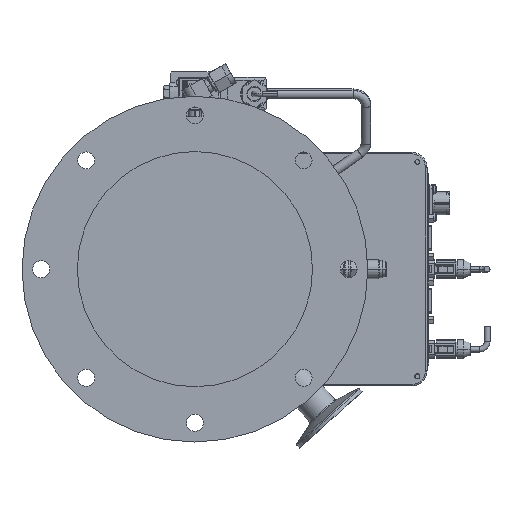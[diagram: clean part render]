
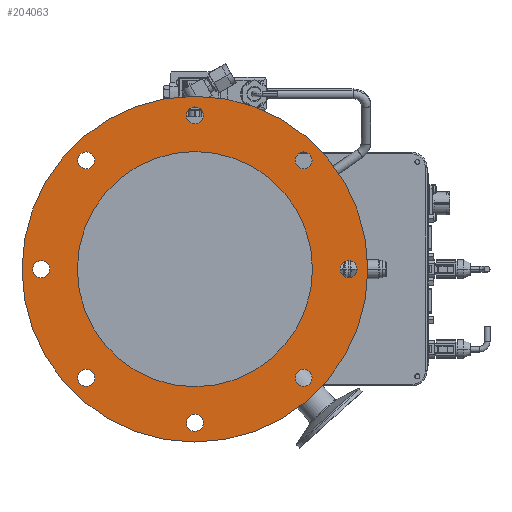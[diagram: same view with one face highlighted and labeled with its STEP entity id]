
A CAD part, left-side view. The second image highlights one B-rep face of the part: STEP entity #204063.
In plain terms, the highlighted planar face has unit normal (-1, 0, 0).
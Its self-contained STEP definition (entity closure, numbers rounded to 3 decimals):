
#68069=CARTESIAN_POINT('',(-175.465,0.,0.));
#68070=DIRECTION('',(-1.,0.,0.));
#68071=DIRECTION('',(0.,0.,1.));
#68072=AXIS2_PLACEMENT_3D('',#68069,#68070,#68071);
#68078=CARTESIAN_POINT('',(-175.465,0.,0.));
#68079=DIRECTION('',(1.,0.,0.));
#68080=DIRECTION('',(0.,0.,1.));
#68081=AXIS2_PLACEMENT_3D('',#68078,#68079,#68080);
#68083=CARTESIAN_POINT('',(-175.465,0.,0.));
#68084=DIRECTION('',(1.,0.,0.));
#68085=DIRECTION('',(0.,0.,1.));
#68086=AXIS2_PLACEMENT_3D('',#68083,#68084,#68085);
#68088=CARTESIAN_POINT('',(-175.465,0.,0.));
#68089=DIRECTION('',(-1.,0.,0.));
#68090=DIRECTION('',(0.,0.,1.));
#68091=AXIS2_PLACEMENT_3D('',#68088,#68089,#68090);
#68093=CARTESIAN_POINT('',(-175.465,70.711,70.711));
#68094=DIRECTION('',(-1.,0.,0.));
#68095=DIRECTION('',(0.,0.,-1.));
#68096=AXIS2_PLACEMENT_3D('',#68093,#68094,#68095);
#68098=CARTESIAN_POINT('',(-175.465,70.711,70.711));
#68099=DIRECTION('',(-1.,0.,0.));
#68100=DIRECTION('',(0.,0.,1.));
#68101=AXIS2_PLACEMENT_3D('',#68098,#68099,#68100);
#68103=CARTESIAN_POINT('',(-175.465,100.,0.));
#68104=DIRECTION('',(-1.,0.,0.));
#68105=DIRECTION('',(0.,0.,-1.));
#68106=AXIS2_PLACEMENT_3D('',#68103,#68104,#68105);
#68108=CARTESIAN_POINT('',(-175.465,100.,0.));
#68109=DIRECTION('',(-1.,0.,0.));
#68110=DIRECTION('',(0.,0.,1.));
#68111=AXIS2_PLACEMENT_3D('',#68108,#68109,#68110);
#68113=CARTESIAN_POINT('',(-175.465,70.711,-70.711));
#68114=DIRECTION('',(-1.,0.,0.));
#68115=DIRECTION('',(0.,0.,-1.));
#68116=AXIS2_PLACEMENT_3D('',#68113,#68114,#68115);
#68118=CARTESIAN_POINT('',(-175.465,70.711,-70.711));
#68119=DIRECTION('',(-1.,0.,0.));
#68120=DIRECTION('',(0.,0.,1.));
#68121=AXIS2_PLACEMENT_3D('',#68118,#68119,#68120);
#68123=CARTESIAN_POINT('',(-175.465,0.,-100.));
#68124=DIRECTION('',(-1.,0.,0.));
#68125=DIRECTION('',(0.,0.,-1.));
#68126=AXIS2_PLACEMENT_3D('',#68123,#68124,#68125);
#68128=CARTESIAN_POINT('',(-175.465,0.,-100.));
#68129=DIRECTION('',(-1.,0.,0.));
#68130=DIRECTION('',(0.,0.,1.));
#68131=AXIS2_PLACEMENT_3D('',#68128,#68129,#68130);
#68133=CARTESIAN_POINT('',(-175.465,-70.711,-70.711));
#68134=DIRECTION('',(-1.,0.,0.));
#68135=DIRECTION('',(0.,0.,-1.));
#68136=AXIS2_PLACEMENT_3D('',#68133,#68134,#68135);
#68138=CARTESIAN_POINT('',(-175.465,-70.711,-70.711));
#68139=DIRECTION('',(-1.,0.,0.));
#68140=DIRECTION('',(0.,0.,1.));
#68141=AXIS2_PLACEMENT_3D('',#68138,#68139,#68140);
#68143=CARTESIAN_POINT('',(-175.465,-100.,0.));
#68144=DIRECTION('',(-1.,0.,0.));
#68145=DIRECTION('',(0.,0.,-1.));
#68146=AXIS2_PLACEMENT_3D('',#68143,#68144,#68145);
#68148=CARTESIAN_POINT('',(-175.465,-100.,0.));
#68149=DIRECTION('',(-1.,0.,0.));
#68150=DIRECTION('',(0.,0.,1.));
#68151=AXIS2_PLACEMENT_3D('',#68148,#68149,#68150);
#68153=CARTESIAN_POINT('',(-175.465,-70.711,70.711));
#68154=DIRECTION('',(-1.,0.,0.));
#68155=DIRECTION('',(0.,0.,1.));
#68156=AXIS2_PLACEMENT_3D('',#68153,#68154,#68155);
#68158=CARTESIAN_POINT('',(-175.465,-70.711,70.711));
#68159=DIRECTION('',(-1.,0.,0.));
#68160=DIRECTION('',(0.,0.,-1.));
#68161=AXIS2_PLACEMENT_3D('',#68158,#68159,#68160);
#68163=CARTESIAN_POINT('',(-175.465,0.,100.));
#68164=DIRECTION('',(-1.,0.,0.));
#68165=DIRECTION('',(0.,0.,1.));
#68166=AXIS2_PLACEMENT_3D('',#68163,#68164,#68165);
#68168=CARTESIAN_POINT('',(-175.465,0.,100.));
#68169=DIRECTION('',(-1.,0.,0.));
#68170=DIRECTION('',(0.,0.,-1.));
#68171=AXIS2_PLACEMENT_3D('',#68168,#68169,#68170);
#68283=CARTESIAN_POINT('',(-175.465,0.,112.5));
#68285=VERTEX_POINT('',#68283);
#68308=CARTESIAN_POINT('',(-175.465,0.,76.5));
#68310=VERTEX_POINT('',#68308);
#68311=CARTESIAN_POINT('',(-175.465,0.,-112.5));
#68313=VERTEX_POINT('',#68311);
#68340=CARTESIAN_POINT('',(-175.465,0.,-76.5));
#68342=VERTEX_POINT('',#68340);
#84733=CARTESIAN_POINT('',(-175.465,70.711,65.211));
#84734=CARTESIAN_POINT('',(-175.465,70.711,76.211));
#84735=VERTEX_POINT('',#84733);
#84736=VERTEX_POINT('',#84734);
#84737=CARTESIAN_POINT('',(-175.465,100.,-5.5));
#84738=CARTESIAN_POINT('',(-175.465,100.,5.5));
#84739=VERTEX_POINT('',#84737);
#84740=VERTEX_POINT('',#84738);
#84741=CARTESIAN_POINT('',(-175.465,70.711,-76.211));
#84742=CARTESIAN_POINT('',(-175.465,70.711,-65.211));
#84743=VERTEX_POINT('',#84741);
#84744=VERTEX_POINT('',#84742);
#84745=CARTESIAN_POINT('',(-175.465,0.,-105.5));
#84746=CARTESIAN_POINT('',(-175.465,0.,-94.5));
#84747=VERTEX_POINT('',#84745);
#84748=VERTEX_POINT('',#84746);
#84749=CARTESIAN_POINT('',(-175.465,-70.711,-76.211));
#84750=CARTESIAN_POINT('',(-175.465,-70.711,-65.211));
#84751=VERTEX_POINT('',#84749);
#84752=VERTEX_POINT('',#84750);
#84753=CARTESIAN_POINT('',(-175.465,-100.,-5.5));
#84754=CARTESIAN_POINT('',(-175.465,-100.,5.5));
#84755=VERTEX_POINT('',#84753);
#84756=VERTEX_POINT('',#84754);
#84757=CARTESIAN_POINT('',(-175.465,-70.711,76.211));
#84758=CARTESIAN_POINT('',(-175.465,-70.711,65.211));
#84759=VERTEX_POINT('',#84757);
#84760=VERTEX_POINT('',#84758);
#84761=CARTESIAN_POINT('',(-175.465,0.,105.5));
#84762=CARTESIAN_POINT('',(-175.465,0.,94.5));
#84763=VERTEX_POINT('',#84761);
#84764=VERTEX_POINT('',#84762);
#204000=CARTESIAN_POINT('',(-175.465,0.,0.));
#204001=DIRECTION('',(1.,0.,0.));
#204002=DIRECTION('',(0.,0.,1.));
#204003=AXIS2_PLACEMENT_3D('',#204000,#204001,#204002);
#204004=PLANE('',#204003);
#204005=ORIENTED_EDGE('',*,*,#203979,.F.);
#204006=ORIENTED_EDGE('',*,*,#203995,.T.);
#204007=EDGE_LOOP('',(#204005,#204006));
#204008=FACE_OUTER_BOUND('',#204007,.F.);
#204010=ORIENTED_EDGE('',*,*,#204009,.F.);
#204012=ORIENTED_EDGE('',*,*,#204011,.T.);
#204013=EDGE_LOOP('',(#204010,#204012));
#204014=FACE_BOUND('',#204013,.F.);
#204016=ORIENTED_EDGE('',*,*,#204015,.T.);
#204018=ORIENTED_EDGE('',*,*,#204017,.T.);
#204019=EDGE_LOOP('',(#204016,#204018));
#204020=FACE_BOUND('',#204019,.F.);
#204022=ORIENTED_EDGE('',*,*,#204021,.T.);
#204024=ORIENTED_EDGE('',*,*,#204023,.T.);
#204025=EDGE_LOOP('',(#204022,#204024));
#204026=FACE_BOUND('',#204025,.F.);
#204028=ORIENTED_EDGE('',*,*,#204027,.T.);
#204030=ORIENTED_EDGE('',*,*,#204029,.T.);
#204031=EDGE_LOOP('',(#204028,#204030));
#204032=FACE_BOUND('',#204031,.F.);
#204034=ORIENTED_EDGE('',*,*,#204033,.T.);
#204036=ORIENTED_EDGE('',*,*,#204035,.T.);
#204037=EDGE_LOOP('',(#204034,#204036));
#204038=FACE_BOUND('',#204037,.F.);
#204040=ORIENTED_EDGE('',*,*,#204039,.T.);
#204042=ORIENTED_EDGE('',*,*,#204041,.T.);
#204043=EDGE_LOOP('',(#204040,#204042));
#204044=FACE_BOUND('',#204043,.F.);
#204046=ORIENTED_EDGE('',*,*,#204045,.T.);
#204048=ORIENTED_EDGE('',*,*,#204047,.T.);
#204049=EDGE_LOOP('',(#204046,#204048));
#204050=FACE_BOUND('',#204049,.F.);
#204052=ORIENTED_EDGE('',*,*,#204051,.T.);
#204054=ORIENTED_EDGE('',*,*,#204053,.T.);
#204055=EDGE_LOOP('',(#204052,#204054));
#204056=FACE_BOUND('',#204055,.F.);
#204058=ORIENTED_EDGE('',*,*,#204057,.T.);
#204060=ORIENTED_EDGE('',*,*,#204059,.T.);
#204061=EDGE_LOOP('',(#204058,#204060));
#204062=FACE_BOUND('',#204061,.F.);
#204063=ADVANCED_FACE('',(#204008,#204014,#204020,#204026,#204032,#204038,
#204044,#204050,#204056,#204062),#204004,.F.);
#68073=CIRCLE('',#68072,112.5);
#68082=CIRCLE('',#68081,112.5);
#68087=CIRCLE('',#68086,76.5);
#68092=CIRCLE('',#68091,76.5);
#68097=CIRCLE('',#68096,5.5);
#68102=CIRCLE('',#68101,5.5);
#68107=CIRCLE('',#68106,5.5);
#68112=CIRCLE('',#68111,5.5);
#68117=CIRCLE('',#68116,5.5);
#68122=CIRCLE('',#68121,5.5);
#68127=CIRCLE('',#68126,5.5);
#68132=CIRCLE('',#68131,5.5);
#68137=CIRCLE('',#68136,5.5);
#68142=CIRCLE('',#68141,5.5);
#68147=CIRCLE('',#68146,5.5);
#68152=CIRCLE('',#68151,5.5);
#68157=CIRCLE('',#68156,5.5);
#68162=CIRCLE('',#68161,5.5);
#68167=CIRCLE('',#68166,5.5);
#68172=CIRCLE('',#68171,5.5);
#203979=EDGE_CURVE('',#68285,#68313,#68073,.T.);
#203995=EDGE_CURVE('',#68285,#68313,#68082,.T.);
#204009=EDGE_CURVE('',#68310,#68342,#68087,.T.);
#204011=EDGE_CURVE('',#68310,#68342,#68092,.T.);
#204015=EDGE_CURVE('',#84735,#84736,#68097,.T.);
#204017=EDGE_CURVE('',#84736,#84735,#68102,.T.);
#204021=EDGE_CURVE('',#84739,#84740,#68107,.T.);
#204023=EDGE_CURVE('',#84740,#84739,#68112,.T.);
#204027=EDGE_CURVE('',#84743,#84744,#68117,.T.);
#204029=EDGE_CURVE('',#84744,#84743,#68122,.T.);
#204033=EDGE_CURVE('',#84747,#84748,#68127,.T.);
#204035=EDGE_CURVE('',#84748,#84747,#68132,.T.);
#204039=EDGE_CURVE('',#84751,#84752,#68137,.T.);
#204041=EDGE_CURVE('',#84752,#84751,#68142,.T.);
#204045=EDGE_CURVE('',#84755,#84756,#68147,.T.);
#204047=EDGE_CURVE('',#84756,#84755,#68152,.T.);
#204051=EDGE_CURVE('',#84759,#84760,#68157,.T.);
#204053=EDGE_CURVE('',#84760,#84759,#68162,.T.);
#204057=EDGE_CURVE('',#84763,#84764,#68167,.T.);
#204059=EDGE_CURVE('',#84764,#84763,#68172,.T.);
